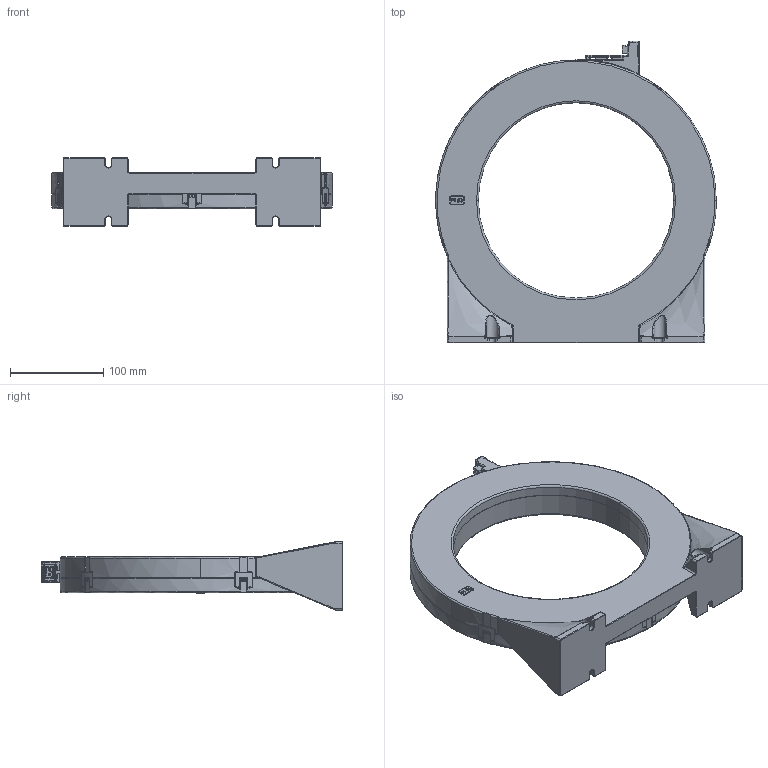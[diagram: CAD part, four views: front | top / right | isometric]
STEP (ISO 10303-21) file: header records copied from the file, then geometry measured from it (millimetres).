
FILE_DESCRIPTION (( 'STEP AP214' ), '1' );
FILE_NAME ('CTAC210.STEP', '2019-05-09T10:06:29', ( 'Administrator' ), ( '' ), 'SwSTEP 2.0', 'SolidWorks 2019', '' );
FILE_SCHEMA (( 'AUTOMOTIVE_DESIGN' ));
Length unit declared in the file: millimetre
Products named in the file (1): CTAC210
Bounding box: 301.8 x 324.35 x 74 mm (x, y, z)
Surface area: 175388.8 mm2 (no closed solid volume)
Topology: 0 solids, 2 shells, 1735 faces, 4268 edges, 2482 vertices
Faces by surface type: cylinder 621, plane 411, bspline 392, torus 262, sphere 35, cone 14
Entity records: 68037 total; most frequent: CARTESIAN_POINT 24329, ORIENTED_EDGE 8376, DIRECTION 7423, EDGE_CURVE 4188, AXIS2_PLACEMENT_3D 2891, VERTEX_POINT 2478, EDGE_LOOP 1764, FACE_OUTER_BOUND 1735
